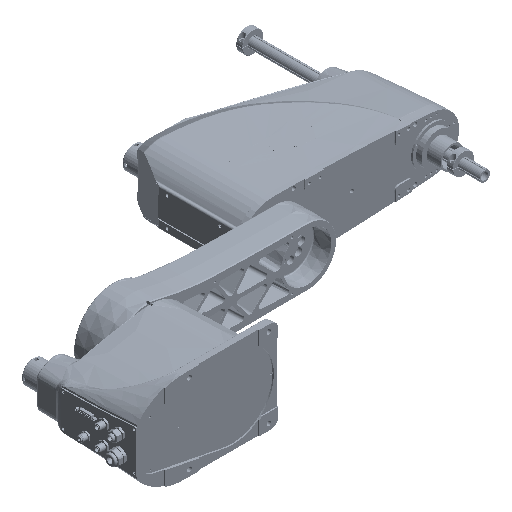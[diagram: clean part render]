
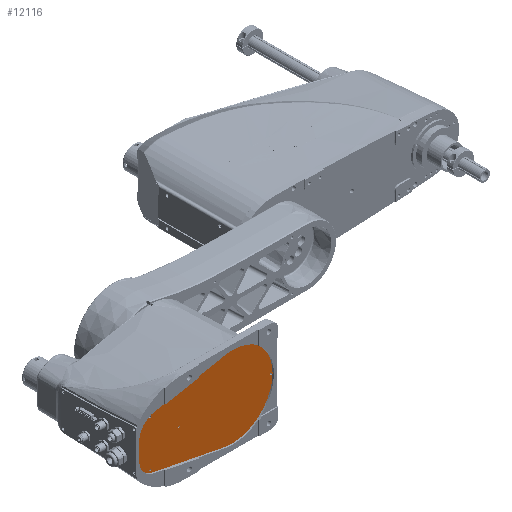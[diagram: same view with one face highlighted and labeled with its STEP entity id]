
A CAD part, isometric view. The second image highlights one B-rep face of the part: STEP entity #12116.
In plain terms, the highlighted planar face has unit normal (0, -1, 0).
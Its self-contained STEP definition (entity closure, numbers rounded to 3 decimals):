
#12116=ADVANCED_FACE('NONE',(#25281,#25282,#25283,#25284,#25285),#25286,.T.);
#25281=FACE_OUTER_BOUND('',#72110,.T.);
#25282=FACE_BOUND('',#72111,.T.);
#25283=FACE_BOUND('',#72112,.T.);
#25284=FACE_BOUND('',#72113,.T.);
#25285=FACE_BOUND('',#72114,.T.);
#25286=PLANE('',#72115);
#72110=EDGE_LOOP('',(#106831,#106832,#106833,#106834,#106835,#106836,#106837,#106838));
#72111=EDGE_LOOP('',(#106839,#106840));
#72112=EDGE_LOOP('',(#106841,#106842));
#72113=EDGE_LOOP('',(#106843,#106844));
#72114=EDGE_LOOP('',(#106845,#106846));
#72115=AXIS2_PLACEMENT_3D('',#106847,#106848,#106849);
#106831=ORIENTED_EDGE('',*,*,#124826,.F.);
#106832=ORIENTED_EDGE('',*,*,#124827,.F.);
#106833=ORIENTED_EDGE('',*,*,#124828,.F.);
#106834=ORIENTED_EDGE('',*,*,#124829,.F.);
#106835=ORIENTED_EDGE('',*,*,#124830,.F.);
#106836=ORIENTED_EDGE('',*,*,#124831,.F.);
#106837=ORIENTED_EDGE('',*,*,#124823,.F.);
#106838=ORIENTED_EDGE('',*,*,#124819,.F.);
#106839=ORIENTED_EDGE('',*,*,#124804,.T.);
#106840=ORIENTED_EDGE('',*,*,#124832,.T.);
#106841=ORIENTED_EDGE('',*,*,#124814,.T.);
#106842=ORIENTED_EDGE('',*,*,#124833,.T.);
#106843=ORIENTED_EDGE('',*,*,#124809,.T.);
#106844=ORIENTED_EDGE('',*,*,#124834,.T.);
#106845=ORIENTED_EDGE('',*,*,#124835,.T.);
#106846=ORIENTED_EDGE('',*,*,#124792,.T.);
#106847=CARTESIAN_POINT('',(0.0,4.0,0.0));
#106848=DIRECTION('',(0.0,-1.0,0.0));
#106849=DIRECTION('',(0.0,0.0,-1.0));
#124792=EDGE_CURVE('NONE',#145606,#145607,#145608,.T.);
#124804=EDGE_CURVE('NONE',#145629,#145627,#145630,.T.);
#124809=EDGE_CURVE('NONE',#145638,#145636,#145639,.T.);
#124814=EDGE_CURVE('NONE',#145647,#145645,#145648,.T.);
#124819=EDGE_CURVE('NONE',#145654,#145656,#145657,.T.);
#124823=EDGE_CURVE('NONE',#145656,#145662,#145663,.T.);
#124826=EDGE_CURVE('NONE',#145666,#145654,#145667,.T.);
#124827=EDGE_CURVE('NONE',#145668,#145666,#145669,.T.);
#124828=EDGE_CURVE('NONE',#145670,#145668,#145671,.T.);
#124829=EDGE_CURVE('NONE',#145672,#145670,#145673,.T.);
#124830=EDGE_CURVE('NONE',#145674,#145672,#145675,.T.);
#124831=EDGE_CURVE('NONE',#145662,#145674,#145676,.T.);
#124832=EDGE_CURVE('NONE',#145627,#145629,#145677,.T.);
#124833=EDGE_CURVE('NONE',#145645,#145647,#145678,.T.);
#124834=EDGE_CURVE('NONE',#145636,#145638,#145679,.T.);
#124835=EDGE_CURVE('NONE',#145607,#145606,#145680,.T.);
#145606=VERTEX_POINT('NONE',#199050);
#145607=VERTEX_POINT('NONE',#199051);
#145608=CIRCLE('',#199052,1.25);
#145627=VERTEX_POINT('NONE',#199075);
#145629=VERTEX_POINT('NONE',#199078);
#145630=CIRCLE('',#199079,1.75);
#145636=VERTEX_POINT('NONE',#199086);
#145638=VERTEX_POINT('NONE',#199089);
#145639=CIRCLE('',#199090,1.75);
#145645=VERTEX_POINT('NONE',#199097);
#145647=VERTEX_POINT('NONE',#199100);
#145648=CIRCLE('',#199101,1.75);
#145654=VERTEX_POINT('NONE',#199108);
#145656=VERTEX_POINT('NONE',#199111);
#145657=CIRCLE('',#199112,77.0);
#145662=VERTEX_POINT('NONE',#199118);
#145663=CIRCLE('',#199119,77.0);
#145666=VERTEX_POINT('NONE',#199123);
#145667=CIRCLE('',#199124,77.0);
#145668=VERTEX_POINT('NONE',#199125);
#145669=LINE('',#199126,#199127);
#145670=VERTEX_POINT('NONE',#199128);
#145671=CIRCLE('',#199129,33.5);
#145672=VERTEX_POINT('NONE',#199130);
#145673=LINE('',#199131,#199132);
#145674=VERTEX_POINT('NONE',#199133);
#145675=CIRCLE('',#199134,33.5);
#145676=LINE('',#199135,#199136);
#145677=CIRCLE('',#199137,1.75);
#145678=CIRCLE('',#199138,1.75);
#145679=CIRCLE('',#199139,1.75);
#145680=CIRCLE('',#199140,1.25);
#199050=CARTESIAN_POINT('',(-100.0,4.0,-1.25));
#199051=CARTESIAN_POINT('',(-100.0,4.0,1.25));
#199052=AXIS2_PLACEMENT_3D('',#219159,#219160,#219161);
#199075=CARTESIAN_POINT('',(-154.,4.0,44.75));
#199078=CARTESIAN_POINT('',(-154.,4.0,41.25));
#199079=AXIS2_PLACEMENT_3D('',#219179,#219180,#219181);
#199086=CARTESIAN_POINT('',(-154.,4.0,-41.25));
#199089=CARTESIAN_POINT('',(-154.,4.0,-44.75));
#199090=AXIS2_PLACEMENT_3D('',#219187,#219188,#219189);
#199097=CARTESIAN_POINT('',(74.,4.0,1.75));
#199100=CARTESIAN_POINT('',(74.,4.0,-1.75));
#199101=AXIS2_PLACEMENT_3D('',#219195,#219196,#219197);
#199108=CARTESIAN_POINT('',(0.,4.0,77.0));
#199111=CARTESIAN_POINT('',(0.0,4.0,-77.0));
#199112=AXIS2_PLACEMENT_3D('',#219203,#219204,#219205);
#199118=CARTESIAN_POINT('',(-14.702,4.0,-75.583));
#199119=AXIS2_PLACEMENT_3D('',#219210,#219211,#219212);
#199123=CARTESIAN_POINT('',(-14.702,4.0,75.583));
#199124=AXIS2_PLACEMENT_3D('',#219214,#219215,#219216);
#199125=CARTESIAN_POINT('',(-149.396,4.0,49.384));
#199126=CARTESIAN_POINT('',(-14.702,4.0,75.583));
#199127=VECTOR('',#219217,1000.0);
#199128=CARTESIAN_POINT('',(-176.5,4.0,16.5));
#199129=AXIS2_PLACEMENT_3D('',#219218,#219219,#219220);
#199130=CARTESIAN_POINT('',(-176.5,4.0,-16.5));
#199131=CARTESIAN_POINT('',(-176.5,4.0,-16.5));
#199132=VECTOR('',#219221,1000.0);
#199133=CARTESIAN_POINT('',(-149.396,4.0,-49.384));
#199134=AXIS2_PLACEMENT_3D('',#219222,#219223,#219224);
#199135=CARTESIAN_POINT('',(-14.702,4.0,-75.583));
#199136=VECTOR('',#219225,1000.0);
#199137=AXIS2_PLACEMENT_3D('',#219226,#219227,#219228);
#199138=AXIS2_PLACEMENT_3D('',#219229,#219230,#219231);
#199139=AXIS2_PLACEMENT_3D('',#219232,#219233,#219234);
#199140=AXIS2_PLACEMENT_3D('',#219235,#219236,#219237);
#219159=CARTESIAN_POINT('',(-100.0,4.0,0.0));
#219160=DIRECTION('',(0.0,1.0,0.0));
#219161=DIRECTION('',(0.0,0.0,-1.0));
#219179=CARTESIAN_POINT('',(-154.,4.0,43.0));
#219180=DIRECTION('',(0.0,1.0,0.0));
#219181=DIRECTION('',(0.0,0.0,-1.0));
#219187=CARTESIAN_POINT('',(-154.,4.0,-43.0));
#219188=DIRECTION('',(0.0,1.0,0.0));
#219189=DIRECTION('',(0.0,0.0,1.0));
#219195=CARTESIAN_POINT('',(74.,4.0,0.0));
#219196=DIRECTION('',(0.0,1.0,0.0));
#219197=DIRECTION('',(0.0,0.0,1.0));
#219203=CARTESIAN_POINT('',(0.0,4.0,0.0));
#219204=DIRECTION('',(0.0,1.0,0.0));
#219205=DIRECTION('',(0.0,0.0,-1.0));
#219210=CARTESIAN_POINT('',(0.0,4.0,0.0));
#219211=DIRECTION('',(0.0,1.0,0.0));
#219212=DIRECTION('',(0.0,0.0,-1.0));
#219214=CARTESIAN_POINT('',(0.0,4.0,0.0));
#219215=DIRECTION('',(0.0,1.0,0.0));
#219216=DIRECTION('',(0.0,0.0,-1.0));
#219217=DIRECTION('',(0.982,0.0,0.191));
#219218=CARTESIAN_POINT('',(-143.,4.0,16.5));
#219219=DIRECTION('',(0.0,1.0,0.0));
#219220=DIRECTION('',(0.0,0.0,-1.0));
#219221=DIRECTION('',(0.0,0.0,1.0));
#219222=CARTESIAN_POINT('',(-143.,4.0,-16.5));
#219223=DIRECTION('',(0.0,1.0,0.0));
#219224=DIRECTION('',(0.0,0.0,1.0));
#219225=DIRECTION('',(-0.982,0.0,0.191));
#219226=CARTESIAN_POINT('',(-154.,4.0,43.0));
#219227=DIRECTION('',(0.0,1.0,0.0));
#219228=DIRECTION('',(0.0,0.0,-1.0));
#219229=CARTESIAN_POINT('',(74.,4.0,0.0));
#219230=DIRECTION('',(0.0,1.0,0.0));
#219231=DIRECTION('',(0.0,0.0,1.0));
#219232=CARTESIAN_POINT('',(-154.,4.0,-43.0));
#219233=DIRECTION('',(0.0,1.0,0.0));
#219234=DIRECTION('',(0.0,0.0,1.0));
#219235=CARTESIAN_POINT('',(-100.0,4.0,0.0));
#219236=DIRECTION('',(0.0,1.0,0.0));
#219237=DIRECTION('',(0.0,0.0,-1.0));
